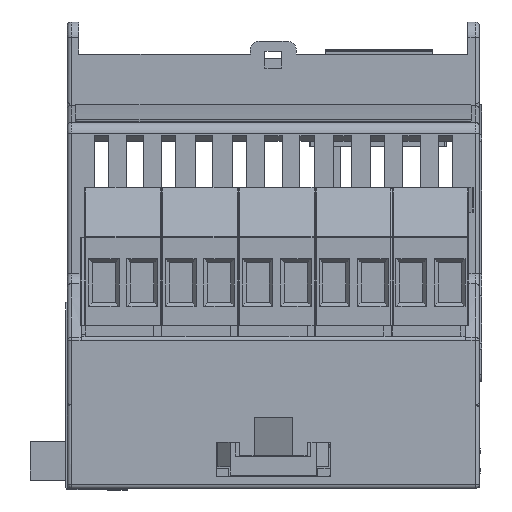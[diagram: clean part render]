
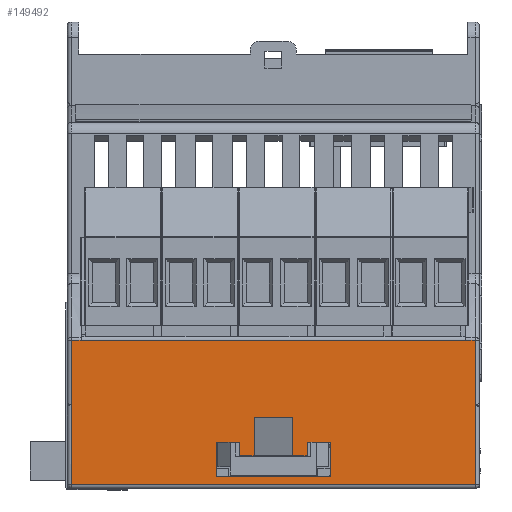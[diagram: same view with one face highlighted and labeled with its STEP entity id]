
A CAD part, front view. The second image highlights one B-rep face of the part: STEP entity #149492.
In plain terms, the highlighted planar face has unit normal (0, -1, 0).
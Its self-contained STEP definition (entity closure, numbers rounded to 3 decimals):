
#9133=FACE_BOUND('',#27961,.T.);
#12650=PLANE('',#159248);
#19792=FACE_OUTER_BOUND('',#27960,.T.);
#27960=EDGE_LOOP('',(#127357,#127358,#127359,#127360,#127361,#127362,#127363,
#127364,#127365,#127366));
#27961=EDGE_LOOP('',(#127367,#127368,#127369,#127370,#127371,#127372,#127373,
#127374,#127375,#127376,#127377,#127378,#127379,#127380,#127381,#127382));
#35028=LINE('',#209716,#52537);
#35031=LINE('',#209749,#52540);
#35033=LINE('',#209807,#52542);
#35269=LINE('',#210713,#52778);
#36289=LINE('',#212925,#53798);
#40924=LINE('',#234034,#58433);
#40939=LINE('',#234070,#58448);
#41032=LINE('',#234260,#58541);
#41037=LINE('',#234269,#58546);
#41038=LINE('',#234272,#58547);
#41088=LINE('',#234375,#58597);
#41089=LINE('',#234377,#58598);
#41090=LINE('',#234379,#58599);
#41091=LINE('',#234380,#58600);
#41092=LINE('',#234381,#58601);
#41093=LINE('',#234384,#58602);
#41094=LINE('',#234385,#58603);
#41095=LINE('',#234387,#58604);
#41096=LINE('',#234389,#58605);
#41097=LINE('',#234391,#58606);
#41098=LINE('',#234393,#58607);
#41099=LINE('',#234395,#58608);
#41100=LINE('',#234397,#58609);
#41101=LINE('',#234398,#58610);
#41102=LINE('',#234400,#58611);
#41103=LINE('',#234401,#58612);
#52537=VECTOR('',#170874,1.);
#52540=VECTOR('',#170913,1.);
#52542=VECTOR('',#170919,1.);
#52778=VECTOR('',#171531,1.);
#53798=VECTOR('',#173541,1.);
#58433=VECTOR('',#185746,1.);
#58448=VECTOR('',#185769,1.);
#58541=VECTOR('',#185944,1.);
#58546=VECTOR('',#185951,1.);
#58547=VECTOR('',#185954,1.);
#58597=VECTOR('',#186032,1.);
#58598=VECTOR('',#186033,1.);
#58599=VECTOR('',#186034,1.);
#58600=VECTOR('',#186035,1.);
#58601=VECTOR('',#186036,1.);
#58602=VECTOR('',#186037,1.);
#58603=VECTOR('',#186038,1.);
#58604=VECTOR('',#186039,1.);
#58605=VECTOR('',#186040,1.);
#58606=VECTOR('',#186041,1.);
#58607=VECTOR('',#186042,1.);
#58608=VECTOR('',#186043,1.);
#58609=VECTOR('',#186044,1.);
#58610=VECTOR('',#186045,1.);
#58611=VECTOR('',#186046,1.);
#58612=VECTOR('',#186047,1.);
#70916=VERTEX_POINT('',#207708);
#71691=VERTEX_POINT('',#209710);
#71693=VERTEX_POINT('',#209714);
#71704=VERTEX_POINT('',#209746);
#71705=VERTEX_POINT('',#209748);
#71707=VERTEX_POINT('',#209754);
#72553=VERTEX_POINT('',#212924);
#76689=VERTEX_POINT('',#234032);
#76690=VERTEX_POINT('',#234033);
#76706=VERTEX_POINT('',#234068);
#76707=VERTEX_POINT('',#234069);
#76763=VERTEX_POINT('',#234259);
#76766=VERTEX_POINT('',#234267);
#76767=VERTEX_POINT('',#234271);
#76806=VERTEX_POINT('',#234374);
#76807=VERTEX_POINT('',#234376);
#76808=VERTEX_POINT('',#234378);
#76809=VERTEX_POINT('',#234382);
#76810=VERTEX_POINT('',#234383);
#76811=VERTEX_POINT('',#234386);
#76812=VERTEX_POINT('',#234388);
#76813=VERTEX_POINT('',#234390);
#76814=VERTEX_POINT('',#234392);
#76815=VERTEX_POINT('',#234394);
#76816=VERTEX_POINT('',#234396);
#76817=VERTEX_POINT('',#234399);
#86627=EDGE_CURVE('',#71693,#71691,#35028,.T.);
#86643=EDGE_CURVE('',#71704,#71705,#35031,.T.);
#86647=EDGE_CURVE('',#71704,#71707,#35033,.T.);
#86964=EDGE_CURVE('',#71691,#70916,#35269,.T.);
#88057=EDGE_CURVE('',#72553,#71705,#36289,.T.);
#94473=EDGE_CURVE('',#76689,#76690,#40924,.T.);
#94490=EDGE_CURVE('',#76706,#76707,#40939,.T.);
#94588=EDGE_CURVE('',#76707,#76763,#41032,.T.);
#94593=EDGE_CURVE('',#76766,#76706,#41037,.T.);
#94594=EDGE_CURVE('',#76767,#76689,#41038,.T.);
#94646=EDGE_CURVE('',#76806,#72553,#41088,.T.);
#94647=EDGE_CURVE('',#76807,#71707,#41089,.T.);
#94648=EDGE_CURVE('',#76807,#76808,#41090,.T.);
#94649=EDGE_CURVE('',#70916,#76808,#41091,.T.);
#94650=EDGE_CURVE('',#71693,#76806,#41092,.T.);
#94651=EDGE_CURVE('',#76809,#76810,#41093,.T.);
#94652=EDGE_CURVE('',#76809,#76763,#41094,.T.);
#94653=EDGE_CURVE('',#76766,#76811,#41095,.T.);
#94654=EDGE_CURVE('',#76812,#76811,#41096,.T.);
#94655=EDGE_CURVE('',#76812,#76813,#41097,.T.);
#94656=EDGE_CURVE('',#76814,#76813,#41098,.T.);
#94657=EDGE_CURVE('',#76814,#76815,#41099,.T.);
#94658=EDGE_CURVE('',#76816,#76815,#41100,.T.);
#94659=EDGE_CURVE('',#76816,#76767,#41101,.T.);
#94660=EDGE_CURVE('',#76690,#76817,#41102,.T.);
#94661=EDGE_CURVE('',#76817,#76810,#41103,.T.);
#127357=ORIENTED_EDGE('',*,*,#94646,.T.);
#127358=ORIENTED_EDGE('',*,*,#88057,.T.);
#127359=ORIENTED_EDGE('',*,*,#86643,.F.);
#127360=ORIENTED_EDGE('',*,*,#86647,.T.);
#127361=ORIENTED_EDGE('',*,*,#94647,.F.);
#127362=ORIENTED_EDGE('',*,*,#94648,.T.);
#127363=ORIENTED_EDGE('',*,*,#94649,.F.);
#127364=ORIENTED_EDGE('',*,*,#86964,.F.);
#127365=ORIENTED_EDGE('',*,*,#86627,.F.);
#127366=ORIENTED_EDGE('',*,*,#94650,.T.);
#127367=ORIENTED_EDGE('',*,*,#94651,.F.);
#127368=ORIENTED_EDGE('',*,*,#94652,.T.);
#127369=ORIENTED_EDGE('',*,*,#94588,.F.);
#127370=ORIENTED_EDGE('',*,*,#94490,.F.);
#127371=ORIENTED_EDGE('',*,*,#94593,.F.);
#127372=ORIENTED_EDGE('',*,*,#94653,.T.);
#127373=ORIENTED_EDGE('',*,*,#94654,.F.);
#127374=ORIENTED_EDGE('',*,*,#94655,.T.);
#127375=ORIENTED_EDGE('',*,*,#94656,.F.);
#127376=ORIENTED_EDGE('',*,*,#94657,.T.);
#127377=ORIENTED_EDGE('',*,*,#94658,.F.);
#127378=ORIENTED_EDGE('',*,*,#94659,.T.);
#127379=ORIENTED_EDGE('',*,*,#94594,.T.);
#127380=ORIENTED_EDGE('',*,*,#94473,.T.);
#127381=ORIENTED_EDGE('',*,*,#94660,.T.);
#127382=ORIENTED_EDGE('',*,*,#94661,.T.);
#149492=ADVANCED_FACE('',(#19792,#9133),#12650,.F.);
#159248=AXIS2_PLACEMENT_3D('',#234373,#186030,#186031);
#170874=DIRECTION('',(1.,0.,0.));
#170913=DIRECTION('',(1.,0.,0.));
#170919=DIRECTION('',(0.,0.,-1.));
#171531=DIRECTION('',(0.,0.,-1.));
#173541=DIRECTION('',(0.,0.,-1.));
#185746=DIRECTION('',(1.,0.,0.));
#185769=DIRECTION('',(-1.,0.,0.));
#185944=DIRECTION('',(-1.,0.,0.));
#185951=DIRECTION('',(-1.,0.,0.));
#185954=DIRECTION('',(1.,0.,0.));
#186030=DIRECTION('center_axis',(0.,1.,0.));
#186031=DIRECTION('ref_axis',(0.,0.,
1.));
#186032=DIRECTION('',(-1.,0.,0.));
#186033=DIRECTION('',(0.,0.,1.));
#186034=DIRECTION('',(1.,0.,0.));
#186035=DIRECTION('',(0.,0.,-1.));
#186036=DIRECTION('',(0.,0.,1.));
#186037=DIRECTION('',(1.,0.,0.));
#186038=DIRECTION('',(0.,0.,1.));
#186039=DIRECTION('',(0.,0.,-1.));
#186040=DIRECTION('',(-1.,0.,0.));
#186041=DIRECTION('',(0.,0.,1.));
#186042=DIRECTION('',(-1.,0.,0.));
#186043=DIRECTION('',(0.,0.,-1.));
#186044=DIRECTION('',(-1.,0.,0.));
#186045=DIRECTION('',(0.,0.,1.));
#186046=DIRECTION('',(1.,0.,0.));
#186047=DIRECTION('',(0.,0.,-1.));
#207708=CARTESIAN_POINT('',(26.3,-44.6,4.919));
#209710=CARTESIAN_POINT('',(26.3,-44.6,13.26));
#209714=CARTESIAN_POINT('',(25.,-44.6,13.26));
#209716=CARTESIAN_POINT('',(-12.408,-44.6,13.26));
#209746=CARTESIAN_POINT('',(-26.3,-44.6,13.26));
#209748=CARTESIAN_POINT('',(-25.,-44.6,13.26));
#209749=CARTESIAN_POINT('',(-26.3,-44.6,13.26));
#209754=CARTESIAN_POINT('',(-26.3,-44.6,4.919));
#209807=CARTESIAN_POINT('',(-26.3,-44.6,-2.3));
#210713=CARTESIAN_POINT('',(26.3,-44.6,-2.3));
#212924=CARTESIAN_POINT('',(-25.,-44.6,13.3));
#212925=CARTESIAN_POINT('',(-25.,-44.6,10.));
#234032=CARTESIAN_POINT('',(4.9,-44.6,0.));
#234033=CARTESIAN_POINT('',(6.25,-44.6,0.));
#234034=CARTESIAN_POINT('',(-0.533,-44.6,0.));
#234068=CARTESIAN_POINT('',(-4.9,-44.6,0.));
#234069=CARTESIAN_POINT('',(-6.25,-44.6,0.));
#234070=CARTESIAN_POINT('',(-0.533,-44.6,0.));
#234259=CARTESIAN_POINT('',(-7.4,-44.6,0.));
#234260=CARTESIAN_POINT('',(-0.533,-44.6,0.));
#234267=CARTESIAN_POINT('',(-4.4,-44.6,0.));
#234269=CARTESIAN_POINT('',(-0.533,-44.6,0.));
#234271=CARTESIAN_POINT('',(4.4,-44.6,0.));
#234272=CARTESIAN_POINT('',(-0.533,-44.6,0.));
#234373=CARTESIAN_POINT('Origin',(0.772,-44.6,-2.492));
#234374=CARTESIAN_POINT('',(25.,-44.6,13.3));
#234375=CARTESIAN_POINT('',(17.467,-44.6,13.3));
#234376=CARTESIAN_POINT('',(-26.3,-44.6,-5.5));
#234377=CARTESIAN_POINT('',(-26.3,-44.6,10.));
#234378=CARTESIAN_POINT('',(26.3,-44.6,-5.5));
#234379=CARTESIAN_POINT('',(10.672,-44.6,-5.5));
#234380=CARTESIAN_POINT('',(26.3,-44.6,2.512));
#234381=CARTESIAN_POINT('',(25.,-44.6,10.));
#234382=CARTESIAN_POINT('',(-7.4,-44.6,-4.5));
#234383=CARTESIAN_POINT('',(7.4,-44.6,-4.5));
#234384=CARTESIAN_POINT('',(-0.533,-44.6,-4.5));
#234385=CARTESIAN_POINT('',(-7.4,-44.6,10.));
#234386=CARTESIAN_POINT('',(-4.4,-44.6,-1.75));
#234387=CARTESIAN_POINT('',(-4.4,-44.6,10.));
#234388=CARTESIAN_POINT('',(-2.5,-44.6,-1.75));
#234389=CARTESIAN_POINT('',(-0.533,-44.6,-1.75));
#234390=CARTESIAN_POINT('',(-2.5,-44.6,3.195));
#234391=CARTESIAN_POINT('',(-2.5,-44.6,10.));
#234392=CARTESIAN_POINT('',(2.5,-44.6,3.195));
#234393=CARTESIAN_POINT('',(-0.533,-44.6,3.195));
#234394=CARTESIAN_POINT('',(2.5,-44.6,-1.75));
#234395=CARTESIAN_POINT('',(2.5,-44.6,10.));
#234396=CARTESIAN_POINT('',(4.4,-44.6,-1.75));
#234397=CARTESIAN_POINT('',(-0.533,-44.6,-1.75));
#234398=CARTESIAN_POINT('',(4.4,-44.6,10.));
#234399=CARTESIAN_POINT('',(7.4,-44.6,0.));
#234400=CARTESIAN_POINT('',(-0.533,-44.6,0.));
#234401=CARTESIAN_POINT('',(7.4,-44.6,10.));
